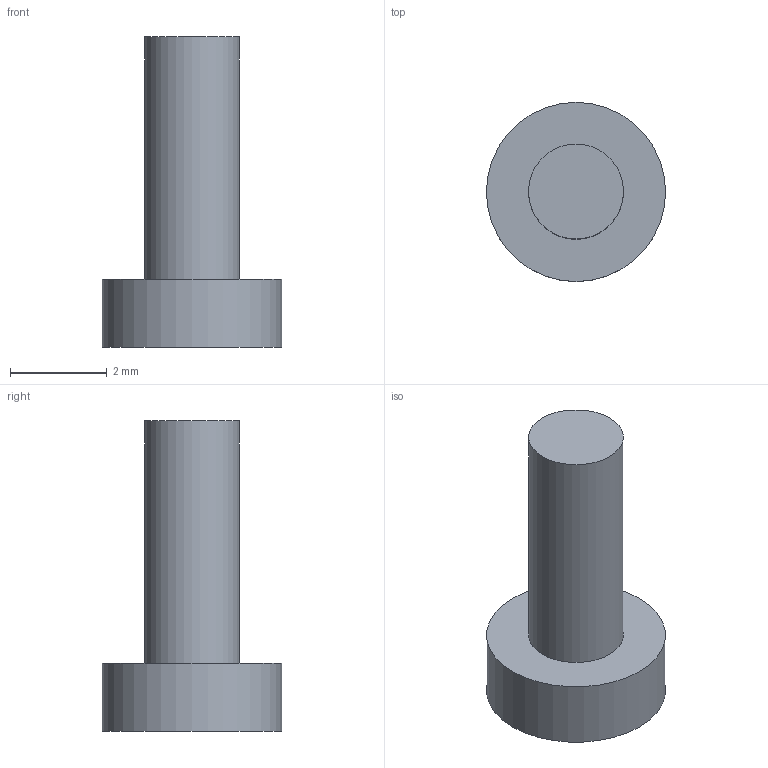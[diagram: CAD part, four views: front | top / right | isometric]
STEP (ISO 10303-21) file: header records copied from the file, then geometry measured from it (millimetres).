
FILE_DESCRIPTION(('Open CASCADE Model'),'2;1');
FILE_NAME('Open CASCADE Shape Model','2026-09-08T16:17:09',('Author'),( 'Open CASCADE'),'Open CASCADE STEP processor 7.7','Open CASCADE 7.7' ,'Unknown');
FILE_SCHEMA(('AUTOMOTIVE_DESIGN { 1 0 10303 214 1 1 1 1 }'));
Length unit declared in the file: millimetre
Products named in the file (1): Open CASCADE STEP translator 7.7 56
Bounding box: 3.7 x 3.7 x 6.4 mm (x, y, z)
Volume: 30.1 mm3; surface area: 68.6 mm2
Topology: 1 solids, 1 shells, 5 faces, 6 edges, 4 vertices
Faces by surface type: plane 3, cylinder 2
Full cylindrical faces by diameter (mm): 1.96 x1, 3.7 x1
Entity records: 192 total; most frequent: DIRECTION 34, CARTESIAN_POINT 28, ORIENTED_EDGE 12, PCURVE 12, DEFINITIONAL_REPRESENTATION 12, AXIS2_PLACEMENT_3D 10, LINE 10, VECTOR 10
